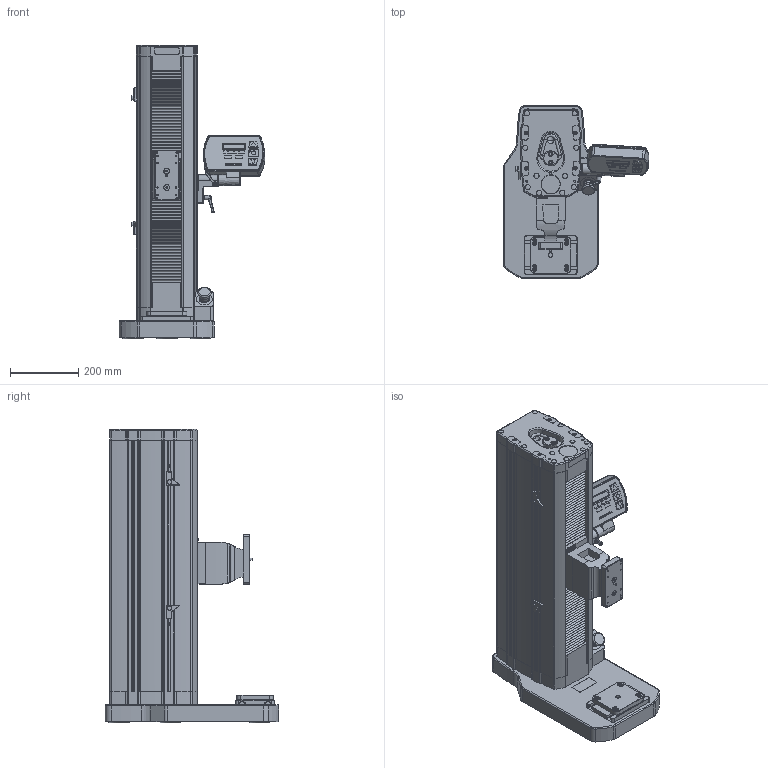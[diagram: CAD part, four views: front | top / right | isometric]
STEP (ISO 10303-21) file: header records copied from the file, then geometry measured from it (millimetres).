
FILE_DESCRIPTION((''),'2;1');
FILE_NAME('F:\CAD files\Itr\3D MARKETING MODELS\MOTORIZED TEST STANDS\ESM1500SFG\ESM1500SFG.stp','2017-09-13T14:53:51',('mlampen'),(''),'Autodesk Inventor 2010','Autodesk Inventor 2010','');
FILE_SCHEMA(('AUTOMOTIVE_DESIGN { 1 0 10303 214 1 1 1 1 }'));
Length unit declared in the file: inch
Products named in the file (4): Assembly1; Part2; Part4; Part6
Assembly tree (3 placements, depth 2):
  Assembly1
    Part2
    Part4
    Part6
Bounding box: 427.27 x 508 x 861.97 mm (x, y, z)
Volume: 42902081.4 mm3; surface area: 1686576.7 mm2
Topology: 22 solids, 28 shells, 5350 faces, 14052 edges, 9072 vertices
Faces by surface type: plane 2761, cylinder 1309, bspline 845, cone 269, torus 134, sphere 32
Full cylindrical faces by diameter (mm): 0.4 x1, 0.6 x1, 1.015 x2, 1.2 x9, 1.55 x8, 1.797 x2, 2 x4, 2.13 x1, 2.845 x16, 3.048 x8, 3.175 x4, 3.302 x4, 3.328 x1, 3.429 x8, 3.81 x4, 4.039 x8, 4.166 x2, 4.826 x2, 5.131 x1, 5.207 x4, 5.41 x8, 5.5 x2, 5.563 x2, 6.35 x18, 6.817 x10, 6.858 x5, 7.366 x2, 7.925 x1, 7.937 x1, 7.938 x20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
Entity records: 175769 total; most frequent: CARTESIAN_POINT 47780, ORIENTED_EDGE 26924, DIRECTION 24920, EDGE_CURVE 13462, VECTOR 9342, LINE 9342, VERTEX_POINT 8889, AXIS2_PLACEMENT_3D 7789
